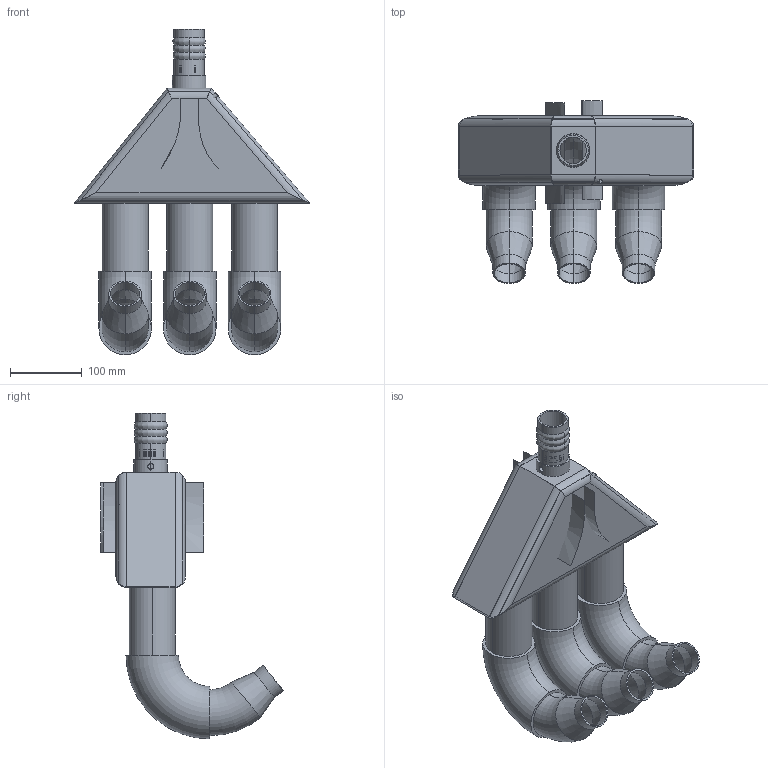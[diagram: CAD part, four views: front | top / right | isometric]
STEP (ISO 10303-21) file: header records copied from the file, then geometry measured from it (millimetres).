
FILE_DESCRIPTION(('STEP AP214'),'1');
FILE_NAME('dirty_manifold-for-wrapper.stp','2015-06-09T06:57:34',(' '),(' '),'Spatial InterOp 3D',' ',' ');
FILE_SCHEMA(('automotive_design'));
Length unit declared in the file: millimetre
Products named in the file (9): dirty_manifold-for-wrapper; main; flow-pipe; outpipe3; object2; baffle2; baffle1; object1
Assembly tree (8 placements, depth 3):
  dirty_manifold-for-wrapper
    dirty_manifold-for-wrapper
      main
      flow-pipe
      outpipe3
      object2
      baffle2
      baffle1
      object1
Bounding box: 328 x 254.13 x 453.35 mm (x, y, z)
Volume: 645422.2 mm3; surface area: 676339 mm2
Topology: 4 solids, 32 shells, 179 faces, 456 edges, 319 vertices
Faces by surface type: cylinder 92, plane 35, torus 24, cone 16, revolution 6, extrusion 4, sphere 2
Entity records: 7687 total; most frequent: CARTESIAN_POINT 1330, DIRECTION 1044, ORIENTED_EDGE 796, EDGE_CURVE 454, AXIS2_PLACEMENT_3D 437, VERTEX_POINT 319, CIRCLE 226, STYLED_ITEM 209
